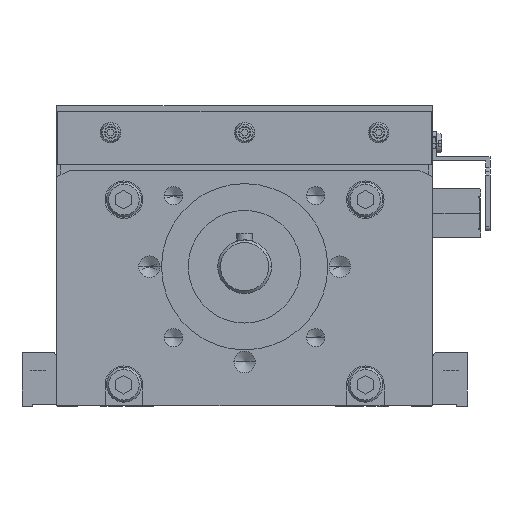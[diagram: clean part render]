
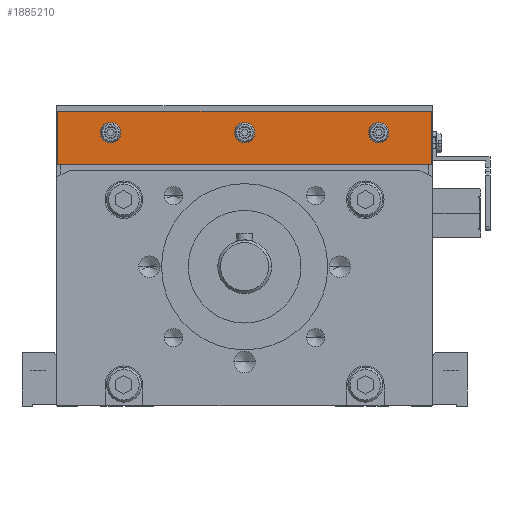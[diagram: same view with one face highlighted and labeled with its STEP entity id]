
A CAD part, front view. The second image highlights one B-rep face of the part: STEP entity #1885210.
In plain terms, the highlighted planar face has unit normal (0, -1, 0) as drawn and (0, 0, -1) by its records, which use the part's own axes.
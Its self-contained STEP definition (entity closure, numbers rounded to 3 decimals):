
#1884370=CARTESIAN_POINT('',(0.,0.,-4.));
#1884380=DIRECTION('',(0.,0.,1.));
#1884390=DIRECTION('',(1.,0.,0.));
#1884400=AXIS2_PLACEMENT_3D('',#1884370,#1884380,#1884390);
#1884410=PLANE('',#1884400);
#1884420=CARTESIAN_POINT('',(50.,1.5,-4.));
#1884430=DIRECTION('',(0.,0.,1.));
#1884440=DIRECTION('',(-1.,0.,0.));
#1884450=AXIS2_PLACEMENT_3D('',#1884420,#1884430,#1884440);
#1884460=CIRCLE('',#1884450,2.3);
#1884470=CARTESIAN_POINT('',(47.7,1.5,-4.));
#1884480=VERTEX_POINT('',#1884470);
#1884490=CARTESIAN_POINT('',(52.3,1.5,-4.));
#1884500=VERTEX_POINT('',#1884490);
#1884510=EDGE_CURVE('',#1884480,#1884500,#1884460,.T.);
#1884520=ORIENTED_EDGE('',*,*,#1884510,.T.);
#1884530=EDGE_CURVE('',#1884500,#1884480,#1884460,.T.);
#1884540=ORIENTED_EDGE('',*,*,#1884530,.T.);
#1884550=EDGE_LOOP('',(#1884540,#1884520));
#1884560=FACE_BOUND('',#1884550,.T.);
#1884570=CARTESIAN_POINT('',(0.,1.5,-4.));
#1884580=DIRECTION('',(0.,0.,1.));
#1884590=DIRECTION('',(-1.,0.,0.));
#1884600=AXIS2_PLACEMENT_3D('',#1884570,#1884580,#1884590);
#1884610=CIRCLE('',#1884600,2.3);
#1884620=CARTESIAN_POINT('',(2.3,1.5,-4.));
#1884630=VERTEX_POINT('',#1884620);
#1884640=CARTESIAN_POINT('',(-2.3,1.5,-4.));
#1884650=VERTEX_POINT('',#1884640);
#1884660=EDGE_CURVE('',#1884630,#1884650,#1884610,.T.);
#1884670=ORIENTED_EDGE('',*,*,#1884660,.T.);
#1884680=EDGE_CURVE('',#1884650,#1884630,#1884610,.T.);
#1884690=ORIENTED_EDGE('',*,*,#1884680,.T.);
#1884700=EDGE_LOOP('',(#1884690,#1884670));
#1884710=FACE_BOUND('',#1884700,.T.);
#1884720=CARTESIAN_POINT('',(100.,1.5,-4.));
#1884730=DIRECTION('',(0.,0.,1.));
#1884740=DIRECTION('',(-1.,0.,0.));
#1884750=AXIS2_PLACEMENT_3D('',#1884720,#1884730,#1884740);
#1884760=CIRCLE('',#1884750,2.3);
#1884770=CARTESIAN_POINT('',(97.7,1.5,-4.));
#1884780=VERTEX_POINT('',#1884770);
#1884790=CARTESIAN_POINT('',(102.3,1.5,-4.));
#1884800=VERTEX_POINT('',#1884790);
#1884810=EDGE_CURVE('',#1884780,#1884800,#1884760,.T.);
#1884820=ORIENTED_EDGE('',*,*,#1884810,.T.);
#1884830=EDGE_CURVE('',#1884800,#1884780,#1884760,.T.);
#1884840=ORIENTED_EDGE('',*,*,#1884830,.T.);
#1884850=EDGE_LOOP('',(#1884840,#1884820));
#1884860=FACE_BOUND('',#1884850,.T.);
#1884870=CARTESIAN_POINT('',(-19.7,9.5,-4.));
#1884880=DIRECTION('',(1.,0.,0.));
#1884890=VECTOR('',#1884880,1.);
#1884900=LINE('',#1884870,#1884890);
#1884910=CARTESIAN_POINT('',(-19.7,9.5,-4.));
#1884920=VERTEX_POINT('',#1884910);
#1884930=CARTESIAN_POINT('',(119.7,9.5,-4.));
#1884940=VERTEX_POINT('',#1884930);
#1884950=EDGE_CURVE('',#1884920,#1884940,#1884900,.T.);
#1884960=ORIENTED_EDGE('',*,*,#1884950,.T.);
#1884970=CARTESIAN_POINT('',(-19.7,-10.5,-4.));
#1884980=DIRECTION('',(0.,1.,0.));
#1884990=VECTOR('',#1884980,1.);
#1885000=LINE('',#1884970,#1884990);
#1885010=CARTESIAN_POINT('',(-19.7,-10.5,-4.));
#1885020=VERTEX_POINT('',#1885010);
#1885030=EDGE_CURVE('',#1885020,#1884920,#1885000,.T.);
#1885040=ORIENTED_EDGE('',*,*,#1885030,.T.);
#1885050=CARTESIAN_POINT('',(119.7,-10.5,-4.));
#1885060=DIRECTION('',(-1.,0.,0.));
#1885070=VECTOR('',#1885060,1.);
#1885080=LINE('',#1885050,#1885070);
#1885090=CARTESIAN_POINT('',(119.7,-10.5,-4.));
#1885100=VERTEX_POINT('',#1885090);
#1885110=EDGE_CURVE('',#1885100,#1885020,#1885080,.T.);
#1885120=ORIENTED_EDGE('',*,*,#1885110,.T.);
#1885130=CARTESIAN_POINT('',(119.7,9.5,-4.));
#1885140=DIRECTION('',(0.,-1.,0.));
#1885150=VECTOR('',#1885140,1.);
#1885160=LINE('',#1885130,#1885150);
#1885170=EDGE_CURVE('',#1884940,#1885100,#1885160,.T.);
#1885180=ORIENTED_EDGE('',*,*,#1885170,.T.);
#1885190=EDGE_LOOP('',(#1885180,#1885120,#1885040,#1884960));
#1885200=FACE_OUTER_BOUND('',#1885190,.T.);
#1885210=ADVANCED_FACE('',(#1884560,#1884710,#1884860,#1885200),#1884410
,.F.);
